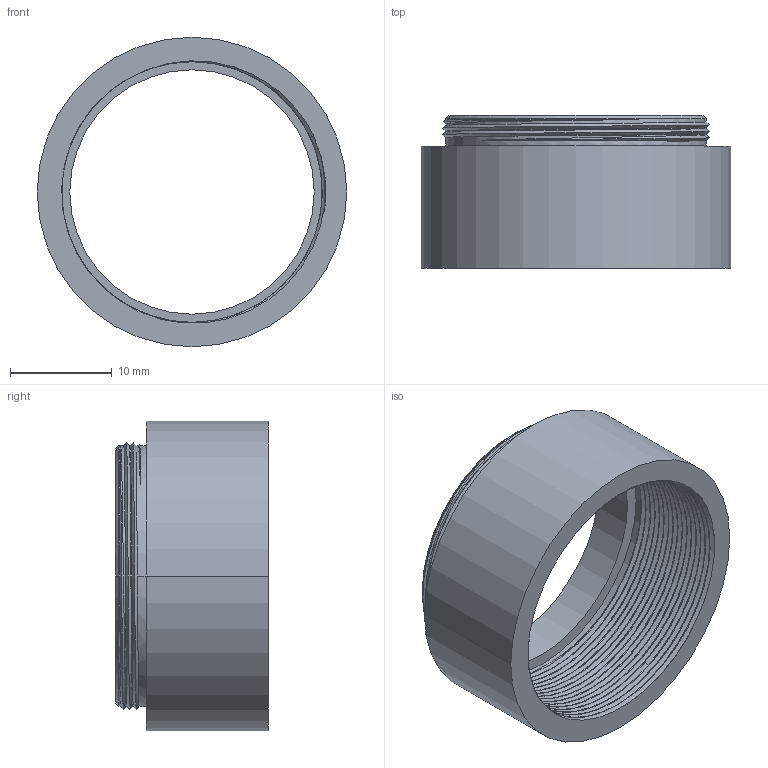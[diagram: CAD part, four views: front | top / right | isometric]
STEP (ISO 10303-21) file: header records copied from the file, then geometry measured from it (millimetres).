
FILE_DESCRIPTION((''),'2;1');
FILE_NAME('CSA-12','2020-10-29T',('Administrator'),(''),'CREO PARAMETRIC BY PTC INC, 2015290','CREO PARAMETRIC BY PTC INC, 2015290','');
FILE_SCHEMA(('CONFIG_CONTROL_DESIGN'));
Length unit declared in the file: millimetre
Products named in the file (1): CSA-12
Bounding box: 30.4 x 15 x 30.4 mm (x, y, z)
Volume: 2645.5 mm3; surface area: 3675 mm2
Topology: 1 solids, 1 shells, 71 faces, 189 edges, 123 vertices
Faces by surface type: cylinder 45, bspline 18, plane 6, cone 2
Entity records: 7788 total; most frequent: CARTESIAN_POINT 6219, ORIENTED_EDGE 378, DIRECTION 212, EDGE_CURVE 189, VERTEX_POINT 123, B_SPLINE_CURVE_WITH_KNOTS 104, EDGE_LOOP 76, AXIS2_PLACEMENT_3D 74
